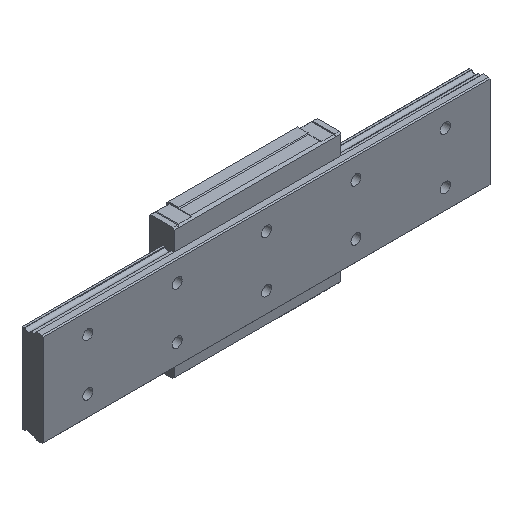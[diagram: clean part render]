
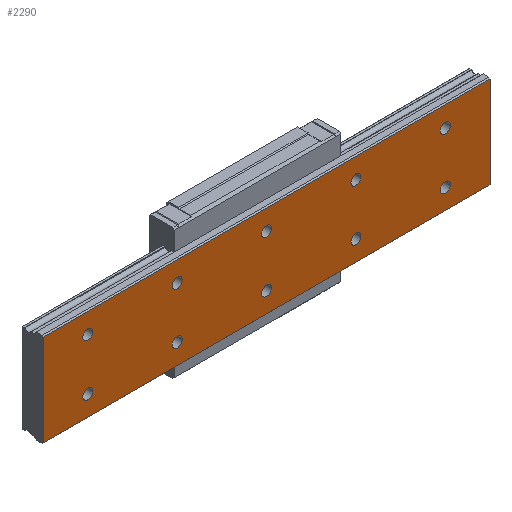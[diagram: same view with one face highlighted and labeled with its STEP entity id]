
A CAD part, isometric view. The second image highlights one B-rep face of the part: STEP entity #2290.
In plain terms, the highlighted planar face has unit normal (0, -1, 0).
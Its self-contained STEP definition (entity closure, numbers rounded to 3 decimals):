
#90=CIRCLE('',#2467,2.25);
#91=CIRCLE('',#2468,2.25);
#92=CIRCLE('',#2469,2.25);
#93=CIRCLE('',#2470,2.25);
#94=CIRCLE('',#2471,2.25);
#95=CIRCLE('',#2472,2.25);
#96=CIRCLE('',#2473,2.25);
#97=CIRCLE('',#2474,2.25);
#98=CIRCLE('',#2475,2.25);
#99=CIRCLE('',#2476,2.25);
#188=ORIENTED_EDGE('',*,*,#802,.F.);
#189=ORIENTED_EDGE('',*,*,#803,.F.);
#190=ORIENTED_EDGE('',*,*,#804,.F.);
#191=ORIENTED_EDGE('',*,*,#805,.F.);
#192=ORIENTED_EDGE('',*,*,#806,.F.);
#193=ORIENTED_EDGE('',*,*,#807,.F.);
#194=ORIENTED_EDGE('',*,*,#808,.F.);
#195=ORIENTED_EDGE('',*,*,#809,.F.);
#196=ORIENTED_EDGE('',*,*,#810,.F.);
#197=ORIENTED_EDGE('',*,*,#811,.F.);
#198=ORIENTED_EDGE('',*,*,#812,.T.);
#199=ORIENTED_EDGE('',*,*,#813,.F.);
#200=ORIENTED_EDGE('',*,*,#814,.F.);
#201=ORIENTED_EDGE('',*,*,#800,.T.);
#800=EDGE_CURVE('',#1107,#1106,#1338,.T.);
#802=EDGE_CURVE('',#1108,#1108,#90,.T.);
#803=EDGE_CURVE('',#1109,#1109,#91,.T.);
#804=EDGE_CURVE('',#1110,#1110,#92,.T.);
#805=EDGE_CURVE('',#1111,#1111,#93,.T.);
#806=EDGE_CURVE('',#1112,#1112,#94,.T.);
#807=EDGE_CURVE('',#1113,#1113,#95,.T.);
#808=EDGE_CURVE('',#1114,#1114,#96,.T.);
#809=EDGE_CURVE('',#1115,#1115,#97,.T.);
#810=EDGE_CURVE('',#1116,#1116,#98,.T.);
#811=EDGE_CURVE('',#1117,#1117,#99,.T.);
#812=EDGE_CURVE('',#1106,#1118,#1340,.T.);
#813=EDGE_CURVE('',#1119,#1118,#1341,.T.);
#814=EDGE_CURVE('',#1107,#1119,#1342,.T.);
#1106=VERTEX_POINT('',#3389);
#1107=VERTEX_POINT('',#3391);
#1108=VERTEX_POINT('',#3395);
#1109=VERTEX_POINT('',#3397);
#1110=VERTEX_POINT('',#3399);
#1111=VERTEX_POINT('',#3401);
#1112=VERTEX_POINT('',#3403);
#1113=VERTEX_POINT('',#3405);
#1114=VERTEX_POINT('',#3407);
#1115=VERTEX_POINT('',#3409);
#1116=VERTEX_POINT('',#3411);
#1117=VERTEX_POINT('',#3413);
#1118=VERTEX_POINT('',#3415);
#1119=VERTEX_POINT('',#3417);
#1338=LINE('',#3390,#1560);
#1340=LINE('',#3414,#1562);
#1341=LINE('',#3416,#1563);
#1342=LINE('',#3418,#1564);
#1560=VECTOR('',#2707,1000.);
#1562=VECTOR('',#2731,1000.);
#1563=VECTOR('',#2732,1000.);
#1564=VECTOR('',#2733,1000.);
#1777=EDGE_LOOP('',(#188));
#1778=EDGE_LOOP('',(#189));
#1779=EDGE_LOOP('',(#190));
#1780=EDGE_LOOP('',(#191));
#1781=EDGE_LOOP('',(#192));
#1782=EDGE_LOOP('',(#193));
#1783=EDGE_LOOP('',(#194));
#1784=EDGE_LOOP('',(#195));
#1785=EDGE_LOOP('',(#196));
#1786=EDGE_LOOP('',(#197));
#1787=EDGE_LOOP('',(#198,#199,#200,#201));
#1987=FACE_BOUND('',#1777,.T.);
#1988=FACE_BOUND('',#1778,.T.);
#1989=FACE_BOUND('',#1779,.T.);
#1990=FACE_BOUND('',#1780,.T.);
#1991=FACE_BOUND('',#1781,.T.);
#1992=FACE_BOUND('',#1782,.T.);
#1993=FACE_BOUND('',#1783,.T.);
#1994=FACE_BOUND('',#1784,.T.);
#1995=FACE_BOUND('',#1785,.T.);
#1996=FACE_BOUND('',#1786,.T.);
#1997=FACE_BOUND('',#1787,.T.);
#2201=PLANE('',#2466);
#2290=ADVANCED_FACE('',(#1987,#1988,#1989,#1990,#1991,#1992,#1993,#1994,
#1995,#1996,#1997),#2201,.F.);
#2466=AXIS2_PLACEMENT_3D('',#3393,#2709,#2710);
#2467=AXIS2_PLACEMENT_3D('',#3394,#2711,#2712);
#2468=AXIS2_PLACEMENT_3D('',#3396,#2713,#2714);
#2469=AXIS2_PLACEMENT_3D('',#3398,#2715,#2716);
#2470=AXIS2_PLACEMENT_3D('',#3400,#2717,#2718);
#2471=AXIS2_PLACEMENT_3D('',#3402,#2719,#2720);
#2472=AXIS2_PLACEMENT_3D('',#3404,#2721,#2722);
#2473=AXIS2_PLACEMENT_3D('',#3406,#2723,#2724);
#2474=AXIS2_PLACEMENT_3D('',#3408,#2725,#2726);
#2475=AXIS2_PLACEMENT_3D('',#3410,#2727,#2728);
#2476=AXIS2_PLACEMENT_3D('',#3412,#2729,#2730);
#2707=DIRECTION('',(-1.,0.,0.));
#2709=DIRECTION('',(0.,1.,0.));
#2710=DIRECTION('',(0.,0.,1.));
#2711=DIRECTION('',(0.,-1.,0.));
#2712=DIRECTION('',(0.,0.,-1.));
#2713=DIRECTION('',(0.,-1.,0.));
#2714=DIRECTION('',(0.,0.,-1.));
#2715=DIRECTION('',(0.,-1.,0.));
#2716=DIRECTION('',(0.,0.,-1.));
#2717=DIRECTION('',(0.,-1.,0.));
#2718=DIRECTION('',(0.,0.,-1.));
#2719=DIRECTION('',(0.,-1.,0.));
#2720=DIRECTION('',(0.,0.,-1.));
#2721=DIRECTION('',(0.,-1.,0.));
#2722=DIRECTION('',(0.,0.,-1.));
#2723=DIRECTION('',(0.,-1.,0.));
#2724=DIRECTION('',(0.,0.,-1.));
#2725=DIRECTION('',(0.,-1.,0.));
#2726=DIRECTION('',(0.,0.,-1.));
#2727=DIRECTION('',(0.,-1.,0.));
#2728=DIRECTION('',(0.,0.,-1.));
#2729=DIRECTION('',(0.,-1.,0.));
#2730=DIRECTION('',(0.,0.,-1.));
#2731=DIRECTION('',(0.,0.,-1.));
#2732=DIRECTION('',(-1.,0.,0.));
#2733=DIRECTION('',(0.,0.,-1.));
#3389=CARTESIAN_POINT('',(-20.,0.,20.5));
#3390=CARTESIAN_POINT('',(180.,0.,20.5));
#3391=CARTESIAN_POINT('',(180.,0.,20.5));
#3393=CARTESIAN_POINT('',(180.,0.,20.5));
#3394=CARTESIAN_POINT('',(0.,0.,11.5));
#3395=CARTESIAN_POINT('',(0.,0.,9.25));
#3396=CARTESIAN_POINT('',(160.,0.,-11.5));
#3397=CARTESIAN_POINT('',(160.,0.,-13.75));
#3398=CARTESIAN_POINT('',(120.,0.,-11.5));
#3399=CARTESIAN_POINT('',(120.,0.,-13.75));
#3400=CARTESIAN_POINT('',(80.,0.,-11.5));
#3401=CARTESIAN_POINT('',(80.,0.,-13.75));
#3402=CARTESIAN_POINT('',(40.,0.,11.5));
#3403=CARTESIAN_POINT('',(40.,0.,9.25));
#3404=CARTESIAN_POINT('',(80.,0.,11.5));
#3405=CARTESIAN_POINT('',(80.,0.,9.25));
#3406=CARTESIAN_POINT('',(120.,0.,11.5));
#3407=CARTESIAN_POINT('',(120.,0.,9.25));
#3408=CARTESIAN_POINT('',(160.,0.,11.5));
#3409=CARTESIAN_POINT('',(160.,0.,9.25));
#3410=CARTESIAN_POINT('',(40.,0.,-11.5));
#3411=CARTESIAN_POINT('',(40.,0.,-13.75));
#3412=CARTESIAN_POINT('',(0.,0.,-11.5));
#3413=CARTESIAN_POINT('',(0.,0.,-13.75));
#3414=CARTESIAN_POINT('',(-20.,0.,20.5));
#3415=CARTESIAN_POINT('',(-20.,0.,-20.5));
#3416=CARTESIAN_POINT('',(180.,0.,-20.5));
#3417=CARTESIAN_POINT('',(180.,0.,-20.5));
#3418=CARTESIAN_POINT('',(180.,0.,20.5));
